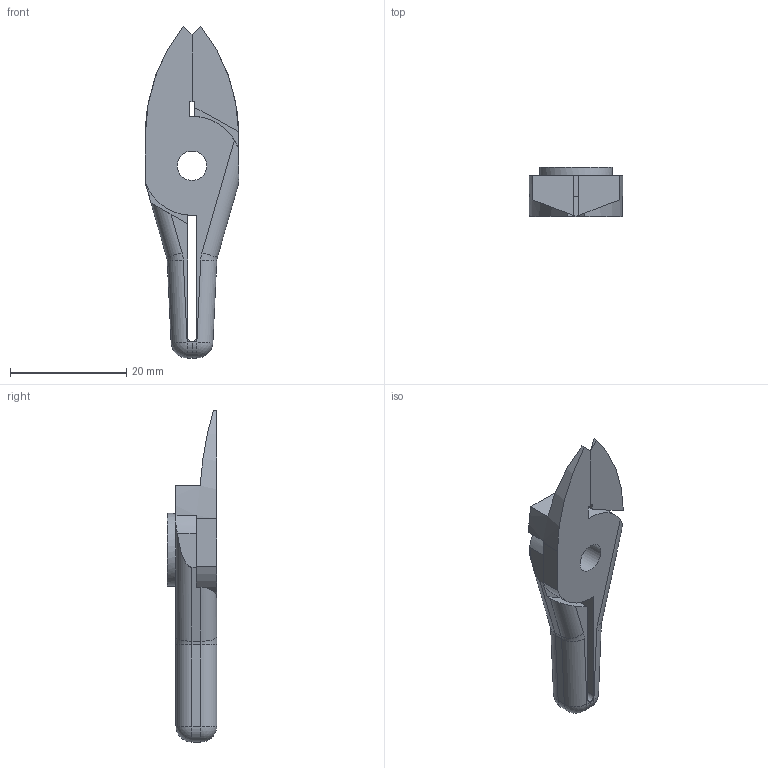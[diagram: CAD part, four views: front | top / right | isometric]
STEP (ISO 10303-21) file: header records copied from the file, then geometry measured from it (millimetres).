
FILE_DESCRIPTION(/* description */ (''),/* implementation_level */ '2;1');
FILE_NAME(/* name */ 'W:\Technik\Konstruktion\CAD-Daten\DJa\Vessel Schneidzangeneinsatz\NY10AJT\NY10AJT closed.stp',/* time_stamp */ '2016-09-20T10:40:36+02:00',/* author */ ('DJansen'),/* organization */ (''),/* preprocessor_version */ 'ST-DEVELOPER v16.5',/* originating_system */ 'Autodesk Inventor 2017',/* authorisation */ '');
FILE_SCHEMA (('AUTOMOTIVE_DESIGN { 1 0 10303 214 3 1 1 }'));
Length unit declared in the file: millimetre
Products named in the file (3): NY10AJT Baugruppe; NY10AJT_1; NY10AJT_2
Assembly tree (2 placements, depth 2):
  NY10AJT Baugruppe
    NY10AJT_1
    NY10AJT_2
Bounding box: 16 x 8.5 x 57 mm (x, y, z)
Volume: 3104.5 mm3; surface area: 3053.4 mm2
Topology: 2 solids, 2 shells, 79 faces, 188 edges, 116 vertices
Faces by surface type: plane 41, cylinder 30, sphere 4, torus 4
Full cylindrical faces by diameter (mm): 4 x2, 5.05 x2, 6.1 x1, 12.5 x1
Entity records: 2303 total; most frequent: DIRECTION 416, CARTESIAN_POINT 386, ORIENTED_EDGE 362, EDGE_CURVE 181, AXIS2_PLACEMENT_3D 153, VERTEX_POINT 115, LINE 110, VECTOR 110
